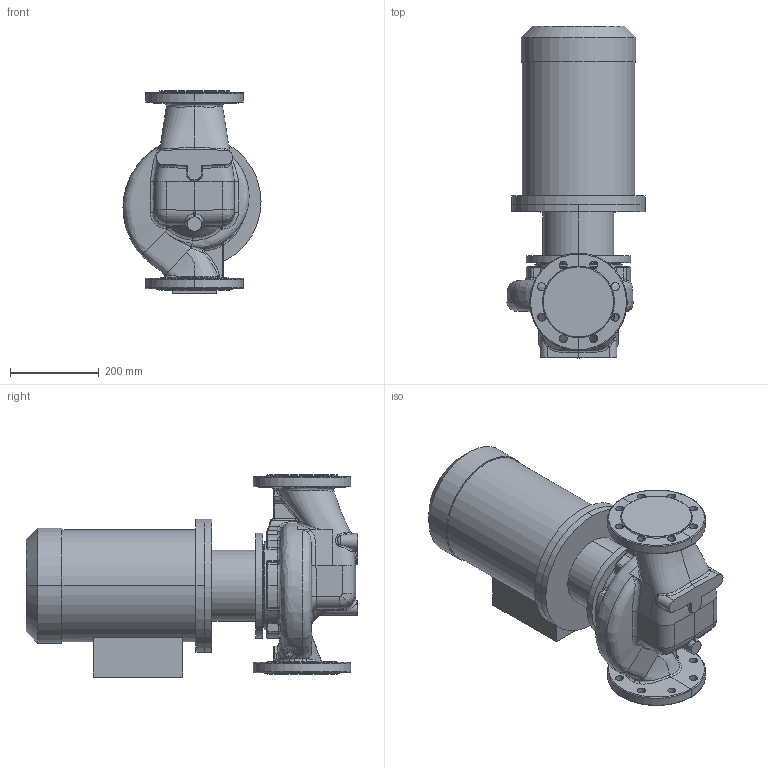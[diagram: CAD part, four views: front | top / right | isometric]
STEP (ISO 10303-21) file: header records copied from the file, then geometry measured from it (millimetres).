
FILE_DESCRIPTION (( 'STEP AP214' ), '1' );
FILE_NAME ('KRL 100-160-2-7,5.STEP', '2026-04-02T12:33:38', ( '' ), ( '' ), 'SwSTEP 2.0', 'SolidWorks 2016', '' );
FILE_SCHEMA (( 'AUTOMOTIVE_DESIGN' ));
Length unit declared in the file: millimetre
Products named in the file (1): KRL 100-160-2-7,5
Bounding box: 311.16 x 748.3 x 456 mm (x, y, z)
Volume: 38920740.9 mm3; surface area: 1351167.8 mm2
Topology: 4 solids, 4 shells, 535 faces, 1301 edges, 777 vertices
Faces by surface type: bspline 255, cylinder 128, plane 76, cone 30, torus 28, sphere 18
Entity records: 54166 total; most frequent: CARTESIAN_POINT 37879, ORIENTED_EDGE 2578, DIRECTION 1563, EDGE_CURVE 1289, VERTEX_POINT 777, AXIS2_PLACEMENT_3D 673, B_SPLINE_CURVE_WITH_KNOTS 621, EDGE_LOOP 582
